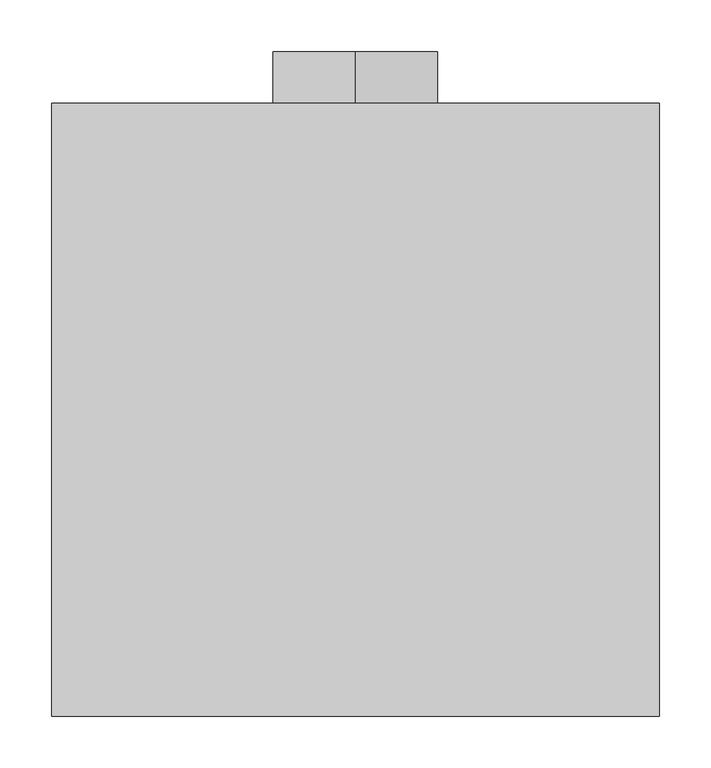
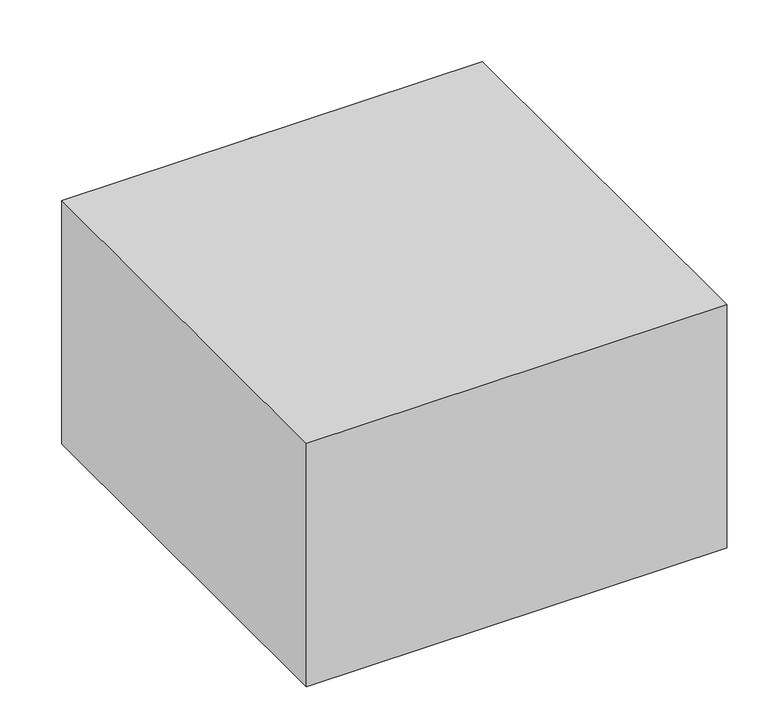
"""IFC4 building model written with IfcOpenShell, lengths in millimetres: air terminal geometry, EOL - plafonnier : EOL-P3-160-600x600."""

import ifcopenshell
import ifcopenshell.guid

model = None  # the IFC model being written
_history = None  # IfcOwnerHistory: only IFC2X3 demands one
_inside = {}  # id of a spatial element -> (the spatial element, [elements in it])
_under = {}  # id of a project, library or spatial element -> (it, [spatial elements below it])
_declared = {}  # id of a project -> (the project, [libraries it declares])
_typed = {}  # id of a type object -> (the type object, [elements of that type])
_made_of = {}  # id of a material, layer set ... -> (it, [elements and type objects made of it])


def new_model(schema):
    """Start an empty IFC model of exactly this schema.

    Asked for "IFC4X3", IfcOpenShell would pick the latest addendum, in which some entities
    have other attributes; the version numbers below select the first issue.
    IFC2X3 requires an IfcOwnerHistory on every rooted entity: one is made here for all.
    """
    global model, _history
    if schema == "IFC4X3":
        model = ifcopenshell.file(schema_version=(4, 3, 0, 0))
    else:
        model = ifcopenshell.file(schema=schema)
    _inside.clear()
    _under.clear()
    _declared.clear()
    _typed.clear()
    _made_of.clear()
    _history = None
    if model.schema == "IFC2X3":
        org = make("IfcOrganization", Name="unknown")
        user = make(
            "IfcPersonAndOrganization",
            ThePerson=make("IfcPerson", FamilyName="unknown"),
            TheOrganization=org,
        )
        app = make(
            "IfcApplication",
            ApplicationDeveloper=org,
            Version="unknown",
            ApplicationFullName="unknown",
            ApplicationIdentifier="unknown",
        )
        _history = make(
            "IfcOwnerHistory",
            OwningUser=user,
            OwningApplication=app,
            ChangeAction="ADDED",
            CreationDate=0,
        )
    return model


def make(cls, **values):
    """One entity of the class cls with the attributes given. An attribute that is None is left unset."""
    return model.create_entity(
        cls, **{name: value for name, value in values.items() if value is not None}
    )


def rooted(cls, **values):
    """An entity with a GlobalId (a new one), such as an element, a storey or a relation."""
    return make(cls, GlobalId=ifcopenshell.guid.new(), OwnerHistory=_history, **values)


def si_unit(unit_type, name, prefix=None):
    """IfcSIUnit, for example si_unit("LENGTHUNIT", "METRE", prefix="MILLI")."""
    return make("IfcSIUnit", UnitType=unit_type, Prefix=prefix, Name=name)


def assignment(units):
    """IfcUnitAssignment: the units of a project."""
    return None if units is None else make("IfcUnitAssignment", Units=units)


def point(xyz):
    """IfcCartesianPoint."""
    return None if xyz is None else make("IfcCartesianPoint", Coordinates=xyz)


def direction(xyz):
    """IfcDirection."""
    return None if xyz is None else make("IfcDirection", DirectionRatios=xyz)


def frame(location, z_axis=None, x_axis=None):
    """IfcAxis2Placement3D, a coordinate frame: its origin and axes. An axis left out is left unset."""
    return make(
        "IfcAxis2Placement3D",
        Location=point(location),
        Axis=direction(z_axis),
        RefDirection=direction(x_axis),
    )


def frame_2d(location, x_axis=None):
    """IfcAxis2Placement2D, a coordinate frame in the plane: its origin and x axis."""
    return make(
        "IfcAxis2Placement2D", Location=point(location), RefDirection=direction(x_axis)
    )


def origin():
    """The frame at (0, 0, 0) with its axes left unset."""
    return frame((0.0, 0.0, 0.0))


def place(relative_to, where):
    """IfcLocalPlacement: puts the frame where relative to a parent placement (None: the world)."""
    return make(
        "IfcLocalPlacement", PlacementRelTo=relative_to, RelativePlacement=where
    )


def context(
    kind, dimensions, precision=None, world=None, true_north=None, identifier=None
):
    """IfcGeometricRepresentationContext, for example the 3D "Model" context."""
    return make(
        "IfcGeometricRepresentationContext",
        ContextIdentifier=identifier,
        ContextType=kind,
        CoordinateSpaceDimension=dimensions,
        Precision=precision,
        WorldCoordinateSystem=world,
        TrueNorth=true_north,
    )


def project(units=None, contexts=None):
    """IfcProject with its units and contexts."""
    return rooted(
        "IfcProject",
        Name="project",
        RepresentationContexts=contexts,
        UnitsInContext=assignment(units),
    )


def spatial(cls, under=None, at=None, **own):
    """A site, building, storey or space (cls), placed at a placement, below another one or the project."""
    s = rooted(cls, ObjectPlacement=at, **own)
    if under is not None:
        _under.setdefault(under.id(), (under, []))[1].append(s)
    return s


def polyline(points):
    """IfcPolyline through the points."""
    return make("IfcPolyline", Points=[point(p) for p in points])


def circle_curve(where, radius):
    """IfcCircle in the frame where."""
    return make("IfcCircle", Position=where, Radius=radius)


def trimmed(basis, trim1, trim2, sense, master):
    """IfcTrimmedCurve: the piece of a basis curve between two trims."""
    return make(
        "IfcTrimmedCurve",
        BasisCurve=basis,
        Trim1=trim1,
        Trim2=trim2,
        SenseAgreement=sense,
        MasterRepresentation=master,
    )


def segment(curve, same_sense, transition):
    """IfcCompositeCurveSegment."""
    return make(
        "IfcCompositeCurveSegment",
        Transition=transition,
        SameSense=same_sense,
        ParentCurve=curve,
    )


def composite_curve(segments, self_intersect=None):
    """IfcCompositeCurve: segments joined end to end."""
    return make("IfcCompositeCurve", Segments=segments, SelfIntersect=self_intersect)


def outline(outer, holes=None, kind="AREA"):
    """IfcArbitraryClosedProfileDef: a profile drawn as a closed curve; with holes, ...WithVoids."""
    if holes is None:
        return make("IfcArbitraryClosedProfileDef", ProfileType=kind, OuterCurve=outer)
    return make(
        "IfcArbitraryProfileDefWithVoids",
        ProfileType=kind,
        OuterCurve=outer,
        InnerCurves=holes,
    )


def extrude(swept, where, along, depth):
    """IfcExtrudedAreaSolid: the profile swept, set in the frame where, extruded along a direction by depth."""
    return make(
        "IfcExtrudedAreaSolid",
        SweptArea=swept,
        Position=where,
        ExtrudedDirection=direction(along),
        Depth=depth,
    )


def shape(context_of_items, identifier, shape_type, items):
    """IfcShapeRepresentation: the items that make up one representation, for example the "Body"."""
    return make(
        "IfcShapeRepresentation",
        ContextOfItems=context_of_items,
        RepresentationIdentifier=identifier,
        RepresentationType=shape_type,
        Items=items,
    )


def source(mapping_origin, context_of_items, identifier, shape_type, items):
    """IfcRepresentationMap: a shape defined once, which mapped items show again and again."""
    return make(
        "IfcRepresentationMap",
        MappingOrigin=mapping_origin,
        MappedRepresentation=shape(context_of_items, identifier, shape_type, items),
    )


def transform(
    local_origin,
    x_axis=None,
    y_axis=None,
    z_axis=None,
    scale=None,
    scale2=None,
    scale3=None,
    uniform=True,
):
    """IfcCartesianTransformationOperator3D, or its non-uniform kind. x_axis, y_axis, z_axis: its Axis1, 2, 3."""
    if uniform:
        return make(
            "IfcCartesianTransformationOperator3D",
            Axis1=direction(x_axis),
            Axis2=direction(y_axis),
            LocalOrigin=point(local_origin),
            Scale=scale,
            Axis3=direction(z_axis),
        )
    return make(
        "IfcCartesianTransformationOperator3DnonUniform",
        Axis1=direction(x_axis),
        Axis2=direction(y_axis),
        LocalOrigin=point(local_origin),
        Scale=scale,
        Axis3=direction(z_axis),
        Scale2=scale2,
        Scale3=scale3,
    )


def mapped(mapping_source, mapping_target):
    """IfcMappedItem: shows the shape of a source again, moved by a transform."""
    return make(
        "IfcMappedItem", MappingSource=mapping_source, MappingTarget=mapping_target
    )


def made_of(thing, what):
    """Note that an element or type object is made of a material, layer set ...; save() writes the relation."""
    if what is not None:
        _made_of.setdefault(what.id(), (what, []))[1].append(thing)
    return thing


def element(
    cls,
    number,
    at=None,
    inside=None,
    cuts=None,
    type_object=None,
    material=None,
    context=None,
    identifier="Body",
    shape_type=None,
    held_by="IfcProductDefinitionShape",
    body=None,
    shapes=None,
    **own,
):
    """One element of the class cls, such as IfcWall. Its Tag is "e" and its number.

    at: its placement. inside: the storey or other place that contains it. cuts: it is an
    opening in that element (IfcRelVoidsElement). A single representation is given by context,
    identifier, shape_type and body (its items); several are given by shapes. held_by: the class
    of the entity that holds the representations. save() writes the other relations.
    """
    e = rooted(cls, Tag="e%d" % number, ObjectPlacement=at, **own)
    if body is not None:
        shapes = [shape(context, identifier, shape_type, body)]
    if shapes is not None:
        e.Representation = make(held_by, Representations=shapes)
    if inside is not None:
        _inside.setdefault(inside.id(), (inside, []))[1].append(e)
    if cuts is not None:
        rooted(
            "IfcRelVoidsElement", RelatingBuildingElement=cuts, RelatedOpeningElement=e
        )
    if type_object is not None:
        _typed.setdefault(type_object.id(), (type_object, []))[1].append(e)
    return made_of(e, material)


def aggregate(whole, parts):
    """IfcRelAggregates: a whole, such as a stair, and the parts it consists of."""
    return rooted("IfcRelAggregates", RelatingObject=whole, RelatedObjects=parts)


def save(model, path):
    """Write the relations noted so far, then the file.

    IfcRelAggregates (storeys below a building ...), IfcRelContainedInSpatialStructure (elements
    in a storey), IfcRelDefinesByType, IfcRelAssociatesMaterial and IfcRelDeclares: one each for
    every whole, place, type object, material and project.
    """
    for whole, parts in _under.values():
        aggregate(whole, parts)
    for where, things in _inside.values():
        rooted(
            "IfcRelContainedInSpatialStructure",
            RelatedElements=things,
            RelatingStructure=where,
        )
    for kind, things in _typed.values():
        rooted("IfcRelDefinesByType", RelatedObjects=things, RelatingType=kind)
    for what, things in _made_of.values():
        rooted("IfcRelAssociatesMaterial", RelatedObjects=things, RelatingMaterial=what)
    for by, libraries in _declared.values():
        rooted("IfcRelDeclares", RelatingContext=by, RelatedDefinitions=libraries)
    model.write(path)


def plane_surface(at):
    """IfcPlane: the flat surface through the origin of the frame at, square to its z axis."""
    return make("IfcPlane", Position=at)


def revolved_surface(curve, axis_point, axis_direction):
    """IfcSurfaceOfRevolution: the curve turned about the line through axis_point along axis_direction."""
    return make(
        "IfcSurfaceOfRevolution",
        SweptCurve=make("IfcArbitraryOpenProfileDef", ProfileType="CURVE", Curve=curve),
        AxisPosition=make("IfcAxis1Placement", Location=point(axis_point), Axis=direction(axis_direction)),
    )


def advanced_brep(points, edges, surfaces, faces):
    """IfcAdvancedBrep: a solid bounded by faces that lie on surfaces and meet in shared edges.

    An edge is (start, end): straight between two places in points (the first is 0);
    or (start, end, curve); or (start, end, curve, False) where it runs against its curve.
    A face is (place in surfaces, loops), or (place, loops, False) where it looks against
    its surface's normal. A loop lists edges by number (the first is 1), with a minus sign
    where the edge is run from its end to its start. The first loop is the outer one.
    """
    corners = [point(p) for p in points]
    vertices = [make("IfcVertexPoint", VertexGeometry=c) for c in corners]
    made = []
    for start, end, *more in edges:
        made.append(
            make(
                "IfcEdgeCurve",
                EdgeStart=vertices[start],
                EdgeEnd=vertices[end],
                EdgeGeometry=more[0] if more else make("IfcPolyline", Points=[corners[start], corners[end]]),
                SameSense=more[1] if len(more) > 1 else True,
            )
        )
    hull = []
    for where, loops, *sense in faces:
        bounds = []
        for j, loop in enumerate(loops):
            ring = [make("IfcOrientedEdge", EdgeElement=made[abs(k) - 1], Orientation=k > 0) for k in loop]
            bounds.append(
                make(
                    "IfcFaceOuterBound" if j == 0 else "IfcFaceBound",
                    Bound=make("IfcEdgeLoop", EdgeList=ring),
                    Orientation=True,
                )
            )
        hull.append(make("IfcAdvancedFace", Bounds=bounds, FaceSurface=surfaces[where], SameSense=sense[0] if sense else True))
    return make("IfcAdvancedBrep", Outer=make("IfcClosedShell", CfsFaces=hull))


def air_terminal_0894231d(model_context):
    return source(origin(), model_context, "Body", "SolidModel", [
        extrude(outline(composite_curve([segment(trimmed(circle_curve(frame_2d((241.0, 0.0)), 80.0), [point((161.0, 0.0))], [point((321.0, 0.0))], False, "CARTESIAN"), True, "CONTINUOUS"), segment(trimmed(circle_curve(frame_2d((241.0, 0.0)), 80.0), [point((321.0, 0.0))], [point((161.0, 0.0))], False, "CARTESIAN"), True, "CONTINUOUS")], self_intersect=False), holes=[composite_curve([segment(trimmed(circle_curve(frame_2d((241.0, 0.0)), 79.0), [point((241.0, 79.0))], [point((241.0, -79.0))], True, "CARTESIAN"), True, "CONTINUOUS"), segment(trimmed(circle_curve(frame_2d((241.0, 0.0)), 79.0), [point((241.0, -79.0))], [point((241.0, 79.0))], True, "CARTESIAN"), True, "CONTINUOUS")], self_intersect=False)]), frame((0.0, 590.0, 0.0), z_axis=(0.0, 1.0, 0.0), x_axis=(0.0, 0.0, 1.0)), (0.0, 0.0, 1.0), 50.0),
        advanced_brep(
        [(295.0, 590.0, 361.0), (-295.0, 590.0, 361.0), (-295.0, -5.0, 361.0), (295.0, -5.0, 361.0), (295.0, 590.0, 0.0), (295.0, -5.0, 0.0), (-295.0, -5.0, 0.0), (-295.0, 590.0, 0.0), (290.0, 585.0, 0.0), (-290.0, 585.0, 0.0), (-290.0, 0.0, 0.0), (290.0, 0.0, 0.0), (-79.0, 590.0, 241.0), (79.0, 590.0, 241.0), (290.0, 585.0, 356.0), (290.0, 0.0, 356.0), (-290.0, 0.0, 356.0), (-290.0, 585.0, 356.0), (79.0, 585.0, 241.0), (-79.0, 585.0, 241.0)],
        [
            (0, 1),
            (1, 2),
            (2, 3),
            (3, 0),
            (4, 5),
            (5, 6),
            (6, 7),
            (7, 4),
            (8, 9),
            (9, 10),
            (10, 11),
            (11, 8),
            (0, 4),
            (7, 1),
            (12, 13, circle_curve(frame((0.0, 590.0, 241.0), z_axis=(0.0, -1.0, 0.0), x_axis=(1.0, 0.0, 0.0)), 79.0)),
            (13, 12, circle_curve(frame((0.0, 590.0, 241.0), z_axis=(0.0, -1.0, 0.0), x_axis=(1.0, 0.0, 0.0)), 79.0)),
            (6, 2),
            (5, 3),
            (14, 15),
            (15, 16),
            (16, 17),
            (17, 14),
            (17, 9),
            (8, 14),
            (18, 19, circle_curve(frame((0.0, 585.0, 241.0), z_axis=(0.0, 1.0, 0.0), x_axis=(1.0, 0.0, 0.0)), 79.0)),
            (19, 18, circle_curve(frame((0.0, 585.0, 241.0), z_axis=(0.0, 1.0, 0.0), x_axis=(1.0, 0.0, 0.0)), 79.0)),
            (16, 10),
            (15, 11),
            (12, 19),
            (18, 13),
        ],
        [
            plane_surface(frame((-295.0, 590.0, 361.0), z_axis=(0.0, 0.0, 1.0), x_axis=(-1.0, 0.0, 0.0))),
            plane_surface(frame((-295.0, 590.0, 0.0), z_axis=(0.0, 0.0, -1.0), x_axis=(1.0, 0.0, 0.0))),
            plane_surface(frame((295.0, 590.0, 361.0), z_axis=(0.0, 1.0, 0.0), x_axis=(0.0, 0.0, -1.0))),
            plane_surface(frame((-295.0, 590.0, 361.0), z_axis=(-1.0, 0.0, 0.0), x_axis=(0.0, 0.0, -1.0))),
            plane_surface(frame((-295.0, -5.0, 361.0), z_axis=(0.0, -1.0, 0.0), x_axis=(0.0, 0.0, -1.0))),
            plane_surface(frame((295.0, -5.0, 361.0), z_axis=(1.0, 0.0, 0.0), x_axis=(0.0, 0.0, -1.0))),
            plane_surface(frame((-290.0, 585.0, 356.0), z_axis=(0.0, 0.0, -1.0), x_axis=(-1.0, 0.0, 0.0))),
            plane_surface(frame((290.0, 585.0, 356.0), z_axis=(0.0, -1.0, 0.0), x_axis=(0.0, 0.0, -1.0))),
            plane_surface(frame((-290.0, 585.0, 356.0), z_axis=(1.0, 0.0, 0.0), x_axis=(0.0, 0.0, -1.0))),
            plane_surface(frame((-290.0, 0.0, 356.0), z_axis=(0.0, 1.0, 0.0), x_axis=(0.0, 0.0, -1.0))),
            plane_surface(frame((290.0, 0.0, 356.0), z_axis=(-1.0, 0.0, 0.0), x_axis=(0.0, 0.0, -1.0))),
            revolved_surface(polyline([(79.0, 585.0, 241.0), (79.0, 590.0, 241.0)]), (0.0, 640.0, 241.0), (0.0, -1.0, 0.0)),
        ],
        [
            (0, [[1, 2, 3, 4]]),
            (1, [[5, 6, 7, 8], [9, 10, 11, 12]]),
            (2, [[-1, 13, -8, 14], [15, 16]]),
            (3, [[-2, -14, -7, 17]]),
            (4, [[-3, -17, -6, 18]]),
            (5, [[-4, -18, -5, -13]]),
            (6, [[19, 20, 21, 22]]),
            (7, [[-22, 23, -9, 24], [25, 26]]),
            (8, [[-21, 27, -10, -23]]),
            (9, [[-20, 28, -11, -27]]),
            (10, [[-19, -24, -12, -28]]),
            (11, [[29, -25, 30, -15]]),
            (11, [[-29, -16, -30, -26]]),
        ],
    ),
    ])


if __name__ == "__main__":
    model = new_model("IFC4")
    model_context = context("Model", 3, world=origin())
    ifc_project = project(units=[si_unit("LENGTHUNIT", "METRE", prefix="MILLI")], contexts=[model_context])
    site = spatial("IfcSite", under=ifc_project)
    building = spatial("IfcBuilding", under=site)
    placement = place(None, origin())
    air_terminal_shape = air_terminal_0894231d(model_context)
    element("IfcAirTerminal", 1, ObjectType="EOL - plafonnier : EOL-P3-160-600x600", at=placement, inside=building, context=model_context, shape_type="MappedRepresentation", body=[
        mapped(air_terminal_shape, transform((0.0, 0.0, 0.0), x_axis=(1.0, 0.0, 0.0), y_axis=(0.0, 1.0, 0.0), z_axis=(0.0, 0.0, 1.0))),
    ])
    save(model, "model.ifc")
